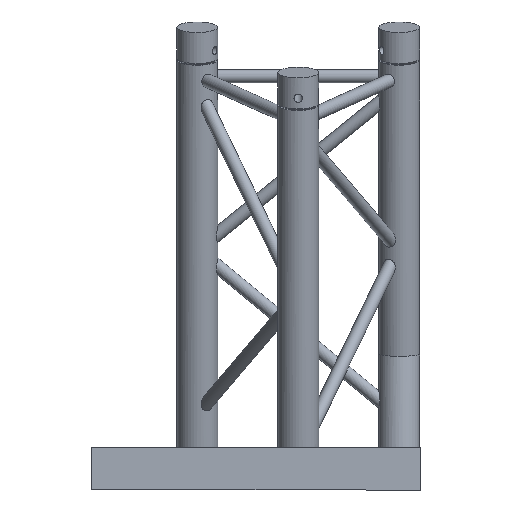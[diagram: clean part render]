
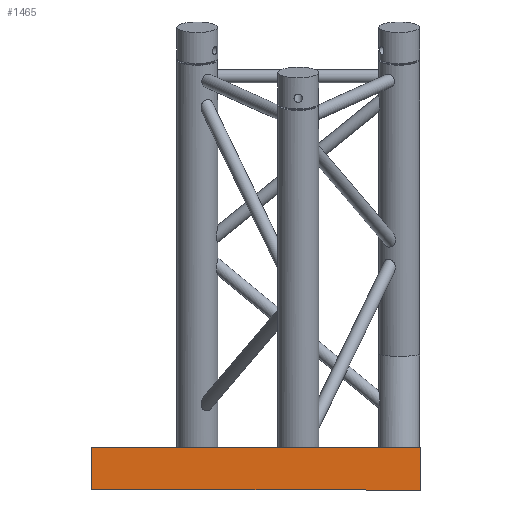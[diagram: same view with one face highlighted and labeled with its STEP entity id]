
A CAD part, front view. The second image highlights one B-rep face of the part: STEP entity #1465.
In plain terms, the highlighted planar face has unit normal (0, -1, 0).
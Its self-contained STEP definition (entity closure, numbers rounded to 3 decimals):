
#297=FACE_OUTER_BOUND('',#448,.T.);
#448=EDGE_LOOP('',(#1221,#1222,#1223,#1224));
#519=LINE('',#2986,#587);
#521=LINE('',#2990,#589);
#523=LINE('',#2994,#591);
#525=LINE('',#2997,#593);
#587=VECTOR('',#2010,389.);
#589=VECTOR('',#2014,50.);
#591=VECTOR('',#2018,50.);
#593=VECTOR('',#2022,389.);
#706=VERTEX_POINT('',#2983);
#707=VERTEX_POINT('',#2985);
#708=VERTEX_POINT('',#2989);
#709=VERTEX_POINT('',#2993);
#873=EDGE_CURVE('',#706,#707,#519,.T.);
#875=EDGE_CURVE('',#708,#707,#521,.T.);
#877=EDGE_CURVE('',#706,#709,#523,.T.);
#879=EDGE_CURVE('',#709,#708,#525,.T.);
#1221=ORIENTED_EDGE('',*,*,#877,.T.);
#1222=ORIENTED_EDGE('',*,*,#879,.T.);
#1223=ORIENTED_EDGE('',*,*,#875,.T.);
#1224=ORIENTED_EDGE('',*,*,#873,.F.);
#1293=PLANE('',#1630);
#1465=ADVANCED_FACE('',(#297),#1293,.T.);
#1630=AXIS2_PLACEMENT_3D('',#2998,#2023,#2024);
#2010=DIRECTION('',(1.,0.,0.));
#2014=DIRECTION('',(0.,0.,1.));
#2018=DIRECTION('',(0.,0.,-1.));
#2022=DIRECTION('',(1.,0.,0.));
#2023=DIRECTION('center_axis',(0.,-1.,0.));
#2024=DIRECTION('ref_axis',(-1.,0.,0.));
#2983=CARTESIAN_POINT('',(-194.5,-343.,67.));
#2985=CARTESIAN_POINT('',(194.5,-343.,67.));
#2986=CARTESIAN_POINT('',(0.,-343.,67.));
#2989=CARTESIAN_POINT('',(194.5,-343.,17.));
#2990=CARTESIAN_POINT('',(194.5,-343.,21.));
#2993=CARTESIAN_POINT('',(-194.5,-343.,17.));
#2994=CARTESIAN_POINT('',(-194.5,-343.,21.));
#2997=CARTESIAN_POINT('',(0.,-343.,17.));
#2998=CARTESIAN_POINT('Origin',(0.,-343.,21.));
